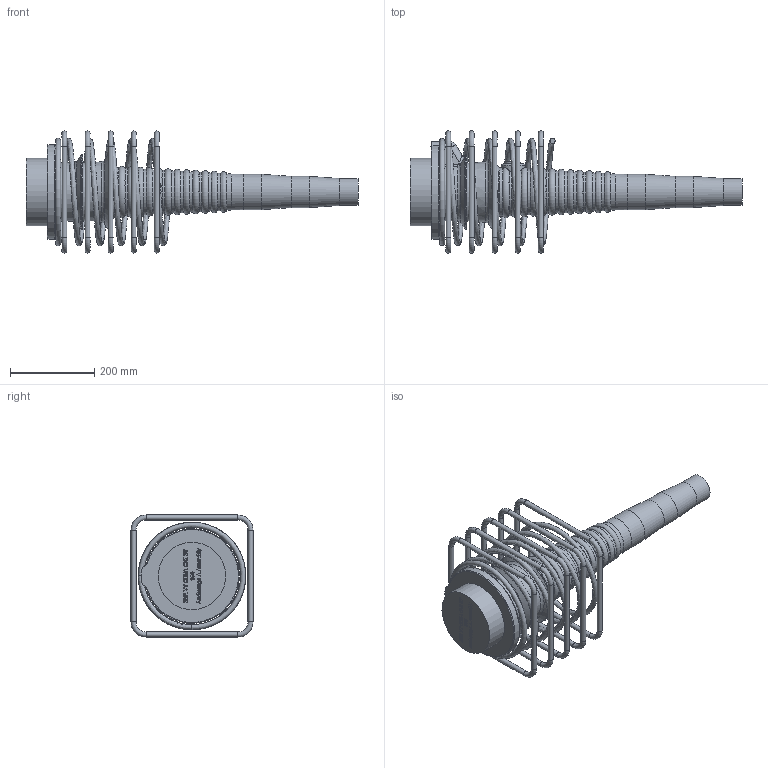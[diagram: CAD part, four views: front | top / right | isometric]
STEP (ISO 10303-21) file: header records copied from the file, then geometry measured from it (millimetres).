
FILE_DESCRIPTION(/* description */ (''),/* implementation_level */ '2;1');
FILE_NAME(/* name */ 'Z:\04 Publications\05 Give-out\BBR\6_3D_Models\BBR VT CONA CMI\BBR VT CONA CMI BT\00906\BBR VT CONA CMI BT 906_Anchorage A Assembly_CS-34,28.stp',/* time_stamp */ '2017-05-05T08:17:13+02:00',/* author */ ('IP'),/* organization */ (''),/* preprocessor_version */ 'ST-DEVELOPER v16.1',/* originating_system */ 'Autodesk Inventor 2016',/* authorisation */ '');
FILE_SCHEMA (('AUTOMOTIVE_DESIGN { 1 0 10303 214 3 1 1 }'));
Length unit declared in the file: millimetre
Products named in the file (1): BBR VT CONA CMI BT 906_Anchorage A Assembly_CS-34,28
Bounding box: 788.53 x 290 x 290 mm (x, y, z)
Volume: 9095879.8 mm3; surface area: 747419.6 mm2
Topology: 6 solids, 6 shells, 775 faces, 1992 edges, 1276 vertices
Faces by surface type: bspline 317, plane 310, torus 75, cylinder 42, cone 17, sphere 14
Full cylindrical faces by diameter (mm): 12 x20, 34 x1, 57 x1, 64.013 x1, 74.013 x1, 84.013 x1, 160 x1, 177.282 x1, 178.841 x1
Entity records: 28759 total; most frequent: CARTESIAN_POINT 12193, ORIENTED_EDGE 3758, DIRECTION 2354, EDGE_CURVE 1879, VERTEX_POINT 1269, LINE 1040, VECTOR 1040, EDGE_LOOP 940
